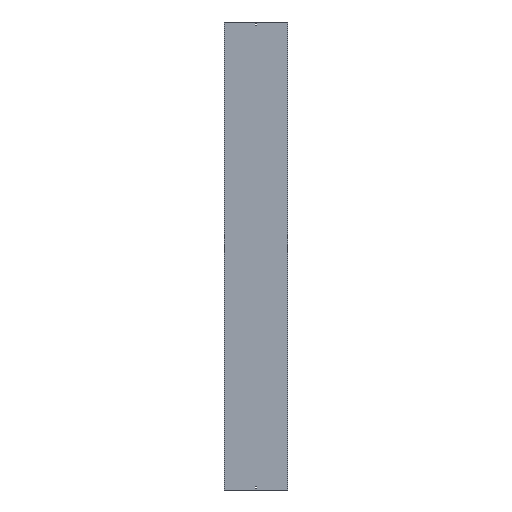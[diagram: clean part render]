
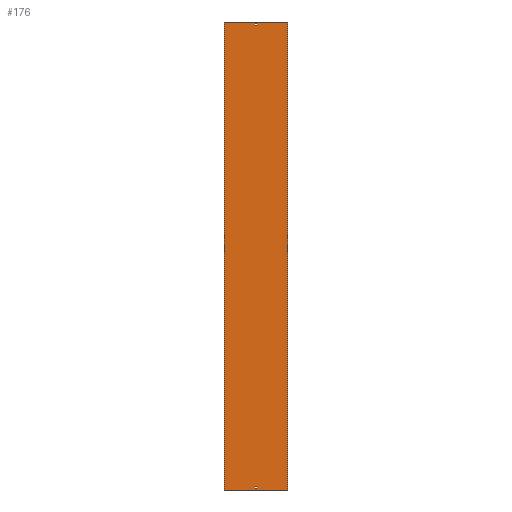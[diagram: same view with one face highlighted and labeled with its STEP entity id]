
A CAD part, front view. The second image highlights one B-rep face of the part: STEP entity #176.
In plain terms, the highlighted planar face has unit normal (0, -1, 0).
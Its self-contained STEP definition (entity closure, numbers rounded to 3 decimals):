
#8 = EDGE_CURVE ( 'NONE', #1319, #1455, #1153, .T. ) ;
#22 = CARTESIAN_POINT ( 'NONE',  ( -3.25, 0., -1488. ) ) ;
#33 = DIRECTION ( 'NONE',  ( 0., 0., -1. ) ) ;
#41 = EDGE_CURVE ( 'NONE', #1489, #967, #106, .T. ) ;
#52 = VECTOR ( 'NONE', #409, 1000. ) ;
#84 = CARTESIAN_POINT ( 'NONE',  ( 3.25, 0., -1479. ) ) ;
#91 = CARTESIAN_POINT ( 'NONE',  ( -3.25, 0., 1488. ) ) ;
#106 = LINE ( 'NONE', #115, #520 ) ;
#115 = CARTESIAN_POINT ( 'NONE',  ( -3.25, 0., 1488. ) ) ;
#121 = ORIENTED_EDGE ( 'NONE', *, *, #933, .T. ) ;
#123 = VERTEX_POINT ( 'NONE', #1264 ) ;
#144 = ORIENTED_EDGE ( 'NONE', *, *, #1293, .F. ) ;
#145 = FACE_BOUND ( 'NONE', #1501, .T. ) ;
#154 = CARTESIAN_POINT ( 'NONE',  ( -202., 0., 1500. ) ) ;
#176 = ADVANCED_FACE ( 'NONE', ( #424, #1300, #145 ), #1157, .F. ) ;
#203 = CARTESIAN_POINT ( 'NONE',  ( -202., 0., -1500. ) ) ;
#242 = LINE ( 'NONE', #1266, #273 ) ;
#250 = EDGE_CURVE ( 'NONE', #967, #774, #1057, .T. ) ;
#264 = DIRECTION ( 'NONE',  ( 0., 0., -1. ) ) ;
#265 = ORIENTED_EDGE ( 'NONE', *, *, #250, .F. ) ;
#273 = VECTOR ( 'NONE', #1387, 1000. ) ;
#278 = ORIENTED_EDGE ( 'NONE', *, *, #41, .F. ) ;
#284 = CARTESIAN_POINT ( 'NONE',  ( -3.25, 0., -1488. ) ) ;
#289 = LINE ( 'NONE', #154, #52 ) ;
#300 = VERTEX_POINT ( 'NONE', #751 ) ;
#305 = EDGE_CURVE ( 'NONE', #1455, #1470, #637, .T. ) ;
#319 = DIRECTION ( 'NONE',  ( 1., 0., 0. ) ) ;
#332 = ORIENTED_EDGE ( 'NONE', *, *, #1090, .T. ) ;
#339 = CARTESIAN_POINT ( 'NONE',  ( 3.25, 0., 1488. ) ) ;
#346 = VECTOR ( 'NONE', #475, 1000. ) ;
#367 = ORIENTED_EDGE ( 'NONE', *, *, #305, .T. ) ;
#380 = CARTESIAN_POINT ( 'NONE',  ( 3.25, 0., -1488. ) ) ;
#392 = CARTESIAN_POINT ( 'NONE',  ( -202., 0., -1500. ) ) ;
#409 = DIRECTION ( 'NONE',  ( 1., 0., 0. ) ) ;
#413 = ORIENTED_EDGE ( 'NONE', *, *, #1185, .F. ) ;
#419 = CARTESIAN_POINT ( 'NONE',  ( 202., 0., 1500. ) ) ;
#424 = FACE_OUTER_BOUND ( 'NONE', #949, .T. ) ;
#462 = CARTESIAN_POINT ( 'NONE',  ( -3.25, 0., 1479. ) ) ;
#475 = DIRECTION ( 'NONE',  ( 1., 0., 0. ) ) ;
#486 = VERTEX_POINT ( 'NONE', #22 ) ;
#520 = VECTOR ( 'NONE', #1130, 1000. ) ;
#542 = DIRECTION ( 'NONE',  ( -1., 0., 0. ) ) ;
#572 = VECTOR ( 'NONE', #319, 1000. ) ;
#582 = LINE ( 'NONE', #726, #572 ) ;
#637 = LINE ( 'NONE', #392, #1616 ) ;
#724 = EDGE_CURVE ( 'NONE', #944, #1006, #1534, .T. ) ;
#726 = CARTESIAN_POINT ( 'NONE',  ( -3.25, 0., -1479. ) ) ;
#744 = ORIENTED_EDGE ( 'NONE', *, *, #1270, .T. ) ;
#751 = CARTESIAN_POINT ( 'NONE',  ( 202., 0., 1500. ) ) ;
#774 = VERTEX_POINT ( 'NONE', #462 ) ;
#798 = CARTESIAN_POINT ( 'NONE',  ( -202., 0., 1500. ) ) ;
#799 = LINE ( 'NONE', #419, #1190 ) ;
#808 = DIRECTION ( 'NONE',  ( 0., 0., 1. ) ) ;
#813 = CARTESIAN_POINT ( 'NONE',  ( -202., 0., 1500. ) ) ;
#818 = VECTOR ( 'NONE', #808, 1000. ) ;
#821 = CARTESIAN_POINT ( 'NONE',  ( -3.25, 0., -1488. ) ) ;
#823 = AXIS2_PLACEMENT_3D ( 'NONE', #813, #1422, #1554 ) ;
#918 = EDGE_CURVE ( 'NONE', #300, #1470, #799, .T. ) ;
#927 = CARTESIAN_POINT ( 'NONE',  ( -3.25, 0., 1488. ) ) ;
#933 = EDGE_CURVE ( 'NONE', #486, #1345, #1438, .T. ) ;
#938 = DIRECTION ( 'NONE',  ( 0., 0., -1. ) ) ;
#944 = VERTEX_POINT ( 'NONE', #84 ) ;
#949 = EDGE_LOOP ( 'NONE', ( #367, #1061, #144, #1382 ) ) ;
#954 = VECTOR ( 'NONE', #1406, 1000. ) ;
#967 = VERTEX_POINT ( 'NONE', #91 ) ;
#997 = EDGE_CURVE ( 'NONE', #774, #123, #1475, .T. ) ;
#1004 = DIRECTION ( 'NONE',  ( 1., 0., 0. ) ) ;
#1006 = VERTEX_POINT ( 'NONE', #1620 ) ;
#1057 = LINE ( 'NONE', #927, #1088 ) ;
#1058 = CARTESIAN_POINT ( 'NONE',  ( -202., 0., 1500. ) ) ;
#1061 = ORIENTED_EDGE ( 'NONE', *, *, #918, .F. ) ;
#1088 = VECTOR ( 'NONE', #938, 1000. ) ;
#1090 = EDGE_CURVE ( 'NONE', #1345, #944, #582, .T. ) ;
#1130 = DIRECTION ( 'NONE',  ( -1., 0., 0. ) ) ;
#1153 = LINE ( 'NONE', #798, #1193 ) ;
#1157 = PLANE ( 'NONE',  #823 ) ;
#1185 = EDGE_CURVE ( 'NONE', #123, #1489, #242, .T. ) ;
#1190 = VECTOR ( 'NONE', #33, 1000. ) ;
#1193 = VECTOR ( 'NONE', #264, 1000. ) ;
#1235 = CARTESIAN_POINT ( 'NONE',  ( 202., 0., -1500. ) ) ;
#1253 = EDGE_LOOP ( 'NONE', ( #1391, #265, #278, #413 ) ) ;
#1264 = CARTESIAN_POINT ( 'NONE',  ( 3.25, 0., 1479. ) ) ;
#1266 = CARTESIAN_POINT ( 'NONE',  ( 3.25, 0., 1488. ) ) ;
#1270 = EDGE_CURVE ( 'NONE', #1006, #486, #1328, .T. ) ;
#1293 = EDGE_CURVE ( 'NONE', #1319, #300, #289, .T. ) ;
#1300 = FACE_BOUND ( 'NONE', #1253, .T. ) ;
#1319 = VERTEX_POINT ( 'NONE', #1058 ) ;
#1328 = LINE ( 'NONE', #821, #1569 ) ;
#1345 = VERTEX_POINT ( 'NONE', #1353 ) ;
#1353 = CARTESIAN_POINT ( 'NONE',  ( -3.25, 0., -1479. ) ) ;
#1382 = ORIENTED_EDGE ( 'NONE', *, *, #8, .T. ) ;
#1387 = DIRECTION ( 'NONE',  ( 0., 0., 1. ) ) ;
#1391 = ORIENTED_EDGE ( 'NONE', *, *, #997, .F. ) ;
#1406 = DIRECTION ( 'NONE',  ( 0., 0., -1. ) ) ;
#1422 = DIRECTION ( 'NONE',  ( 0., 1., 0. ) ) ;
#1438 = LINE ( 'NONE', #284, #818 ) ;
#1455 = VERTEX_POINT ( 'NONE', #203 ) ;
#1470 = VERTEX_POINT ( 'NONE', #1235 ) ;
#1475 = LINE ( 'NONE', #1627, #346 ) ;
#1489 = VERTEX_POINT ( 'NONE', #339 ) ;
#1501 = EDGE_LOOP ( 'NONE', ( #121, #332, #1599, #744 ) ) ;
#1534 = LINE ( 'NONE', #380, #954 ) ;
#1554 = DIRECTION ( 'NONE',  ( -1., 0., 0. ) ) ;
#1569 = VECTOR ( 'NONE', #542, 1000. ) ;
#1599 = ORIENTED_EDGE ( 'NONE', *, *, #724, .T. ) ;
#1616 = VECTOR ( 'NONE', #1004, 1000. ) ;
#1620 = CARTESIAN_POINT ( 'NONE',  ( 3.25, 0., -1488. ) ) ;
#1627 = CARTESIAN_POINT ( 'NONE',  ( -3.25, 0., 1479. ) ) ;
